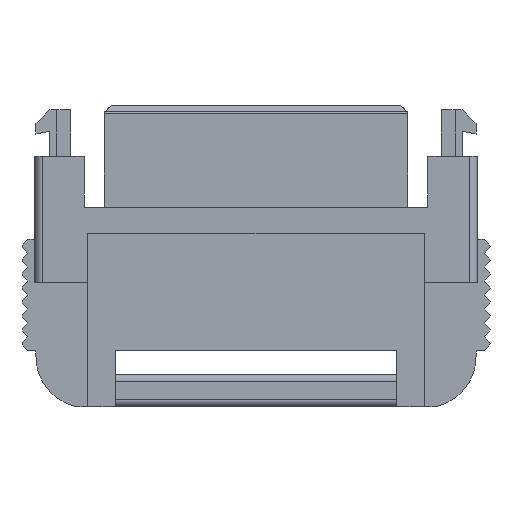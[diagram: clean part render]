
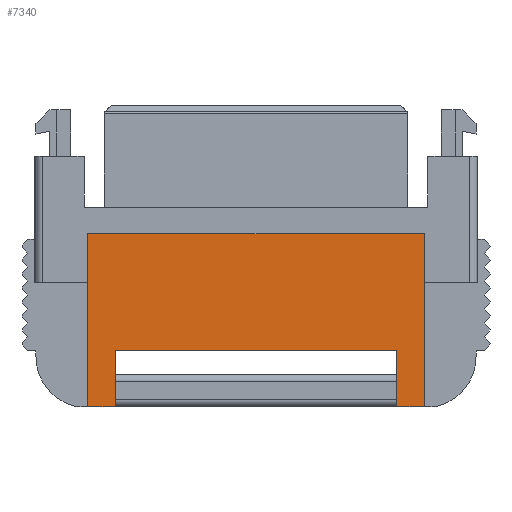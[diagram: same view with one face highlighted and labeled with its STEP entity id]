
A CAD part, front view. The second image highlights one B-rep face of the part: STEP entity #7340.
In plain terms, the highlighted planar face has unit normal (0, -1, 0).
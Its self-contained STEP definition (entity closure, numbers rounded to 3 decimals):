
#6630=CARTESIAN_POINT('',(20.436,-54.156,
7.113));
#6640=DIRECTION('',(0.,1.,0.));
#6650=DIRECTION('',(1.,0.,0.));
#6660=AXIS2_PLACEMENT_3D('',#6630,#6640,#6650);
#6670=PLANE('',#6660);
#6680=CARTESIAN_POINT('',(0.,-54.156,-2.7));
#6690=DIRECTION('',(1.,0.,0.));
#6700=VECTOR('',#6690,1.);
#6710=LINE('',#6680,#6700);
#6720=CARTESIAN_POINT('',(21.23,-54.156,
-2.7));
#6730=VERTEX_POINT('',#6720);
#6740=CARTESIAN_POINT('',(41.4,-54.156,
-2.7));
#6750=VERTEX_POINT('',#6740);
#6760=EDGE_CURVE('',#6730,#6750,#6710,.T.);
#6770=ORIENTED_EDGE('',*,*,#6760,.T.);
#6780=CARTESIAN_POINT('',(21.23,-54.156,
14.857));
#6790=DIRECTION('',(0.,0.,1.));
#6800=VECTOR('',#6790,1.);
#6810=LINE('',#6780,#6800);
#6820=CARTESIAN_POINT('',(21.23,-54.156,
-6.7));
#6830=VERTEX_POINT('',#6820);
#6840=EDGE_CURVE('',#6830,#6730,#6810,.T.);
#6850=ORIENTED_EDGE('',*,*,#6840,.T.);
#6860=CARTESIAN_POINT('',(49.755,-54.156,-6.7));
#6870=DIRECTION('',(-1.,0.,0.));
#6880=VECTOR('',#6870,1.);
#6890=LINE('',#6860,#6880);
#6900=CARTESIAN_POINT('',(19.225,-54.156,-6.7));
#6910=VERTEX_POINT('',#6900);
#6920=EDGE_CURVE('',#6830,#6910,#6890,.T.);
#6930=ORIENTED_EDGE('',*,*,#6920,.F.);
#6940=CARTESIAN_POINT('',(19.225,-54.156,
0.));
#6950=DIRECTION('',(0.,0.,1.));
#6960=VECTOR('',#6950,1.);
#6970=LINE('',#6940,#6960);
#6980=CARTESIAN_POINT('',(19.225,-54.156,
5.7));
#6990=VERTEX_POINT('',#6980);
#7000=EDGE_CURVE('',#6910,#6990,#6970,.T.);
#7010=ORIENTED_EDGE('',*,*,#7000,.F.);
#7020=CARTESIAN_POINT('',(-104.473,-54.156,5.7
));
#7030=DIRECTION('',(-1.,0.,0.));
#7040=VECTOR('',#7030,1.);
#7050=LINE('',#7020,#7040);
#7060=CARTESIAN_POINT('',(43.405,-54.156,
5.7));
#7070=VERTEX_POINT('',#7060);
#7080=EDGE_CURVE('',#7070,#6990,#7050,.T.);
#7090=ORIENTED_EDGE('',*,*,#7080,.T.);
#7100=CARTESIAN_POINT('',(43.405,-54.156,
-2.7));
#7110=DIRECTION('',(0.,0.,1.));
#7120=VECTOR('',#7110,1.);
#7130=LINE('',#7100,#7120);
#7140=CARTESIAN_POINT('',(43.405,-54.156,-6.7));
#7150=VERTEX_POINT('',#7140);
#7160=EDGE_CURVE('',#7150,#7070,#7130,.T.);
#7170=ORIENTED_EDGE('',*,*,#7160,.T.);
#7180=CARTESIAN_POINT('',(43.405,-54.156,-6.7));
#7190=DIRECTION('',(-1.,0.,0.));
#7200=VECTOR('',#7190,1.);
#7210=LINE('',#7180,#7200);
#7220=CARTESIAN_POINT('',(41.4,-54.156,-6.7));
#7230=VERTEX_POINT('',#7220);
#7240=EDGE_CURVE('',#7150,#7230,#7210,.T.);
#7250=ORIENTED_EDGE('',*,*,#7240,.F.);
#7260=CARTESIAN_POINT('',(41.4,-54.156,
14.857));
#7270=DIRECTION('',(0.,0.,-1.));
#7280=VECTOR('',#7270,1.);
#7290=LINE('',#7260,#7280);
#7300=EDGE_CURVE('',#6750,#7230,#7290,.T.);
#7310=ORIENTED_EDGE('',*,*,#7300,.T.);
#7320=EDGE_LOOP('',(#7310,#7250,#7170,#7090,#7010,#6930,#6850,#6770));
#7330=FACE_OUTER_BOUND('',#7320,.T.);
#7340=ADVANCED_FACE('',(#7330),#6670,.F.);
